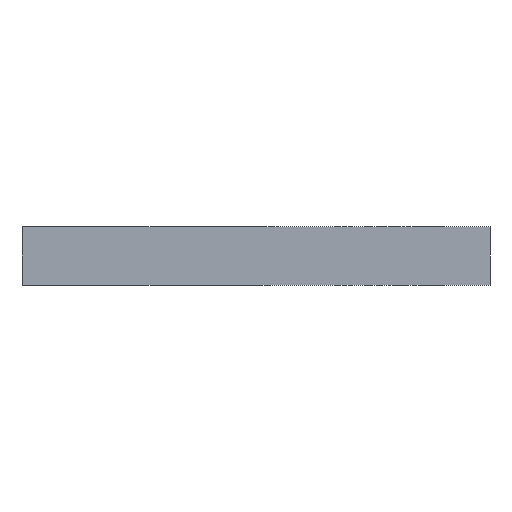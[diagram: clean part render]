
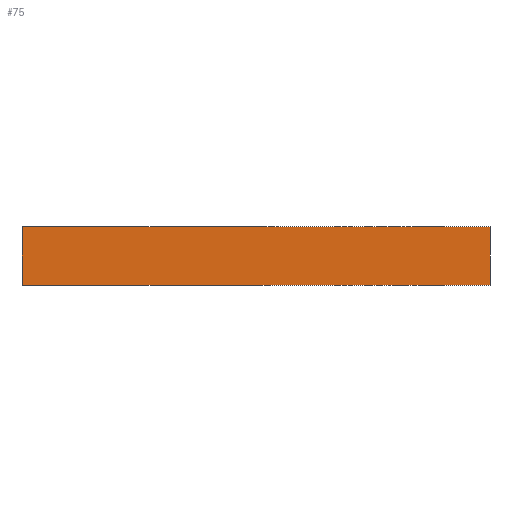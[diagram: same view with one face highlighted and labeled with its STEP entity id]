
A CAD part, left-side view. The second image highlights one B-rep face of the part: STEP entity #75.
In plain terms, the highlighted planar face has unit normal (-1, 0, 0).
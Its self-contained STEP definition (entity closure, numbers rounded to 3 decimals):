
#75=ADVANCED_FACE('',(#126),#125,.T.);
#125=PLANE('',#664);
#126=FACE_OUTER_BOUND('',#665,.T.);
#661=CARTESIAN_POINT('',(-40.,-48.,-11.));
#662=DIRECTION('',(-1.,0.,0.));
#663=DIRECTION('',(0.,0.,1.));
#664=AXIS2_PLACEMENT_3D('',#661,#662,#663);
#665=EDGE_LOOP('',(#947,#948,#949,#950));
#947=ORIENTED_EDGE('',*,*,#1211,.T.);
#948=ORIENTED_EDGE('',*,*,#1212,.T.);
#949=ORIENTED_EDGE('',*,*,#1213,.F.);
#950=ORIENTED_EDGE('',*,*,#1214,.T.);
#1211=EDGE_CURVE('',#1343,#1344,#1345,.T.);
#1212=EDGE_CURVE('',#1344,#1351,#1352,.T.);
#1213=EDGE_CURVE('',#1358,#1351,#1359,.T.);
#1214=EDGE_CURVE('',#1358,#1343,#1365,.T.);
#1343=VERTEX_POINT('',#2223);
#1344=VERTEX_POINT('',#2224);
#1345=LINE('',#2225,#2226);
#1351=VERTEX_POINT('',#2228);
#1352=LINE('',#2229,#2230);
#1358=VERTEX_POINT('',#2232);
#1359=LINE('',#2233,#2234);
#1365=LINE('',#2236,#2237);
#2223=CARTESIAN_POINT('',(-40.,-40.,-10.));
#2224=CARTESIAN_POINT('',(-40.,-40.,0.));
#2225=CARTESIAN_POINT('',(-40.,-40.,-10.));
#2226=VECTOR('',#2227,10.);
#2227=DIRECTION('',(0.,0.,1.));
#2228=CARTESIAN_POINT('',(-40.,40.,0.));
#2229=CARTESIAN_POINT('',(-40.,-40.,0.));
#2230=VECTOR('',#2231,80.);
#2231=DIRECTION('',(0.,1.,0.));
#2232=CARTESIAN_POINT('',(-40.,40.,-10.));
#2233=CARTESIAN_POINT('',(-40.,40.,-10.));
#2234=VECTOR('',#2235,10.);
#2235=DIRECTION('',(0.,0.,1.));
#2236=CARTESIAN_POINT('',(-40.,40.,-10.));
#2237=VECTOR('',#2238,80.);
#2238=DIRECTION('',(0.,-1.,0.));
